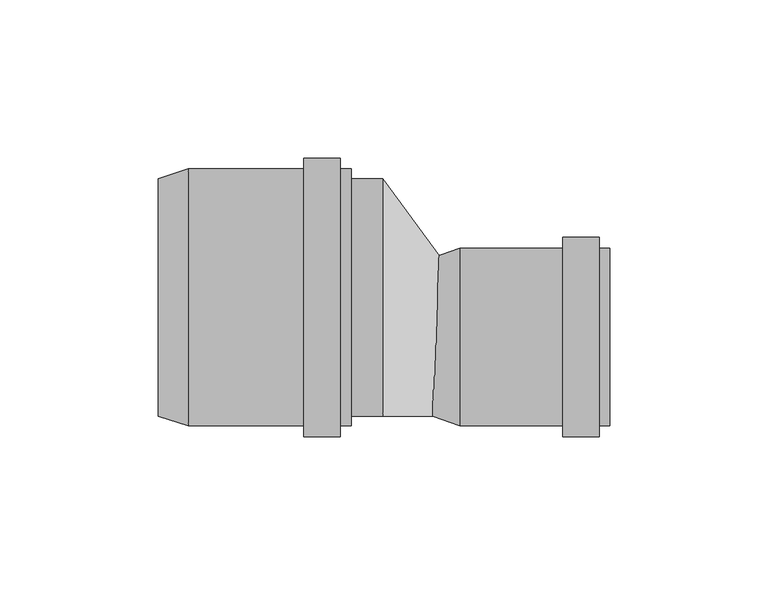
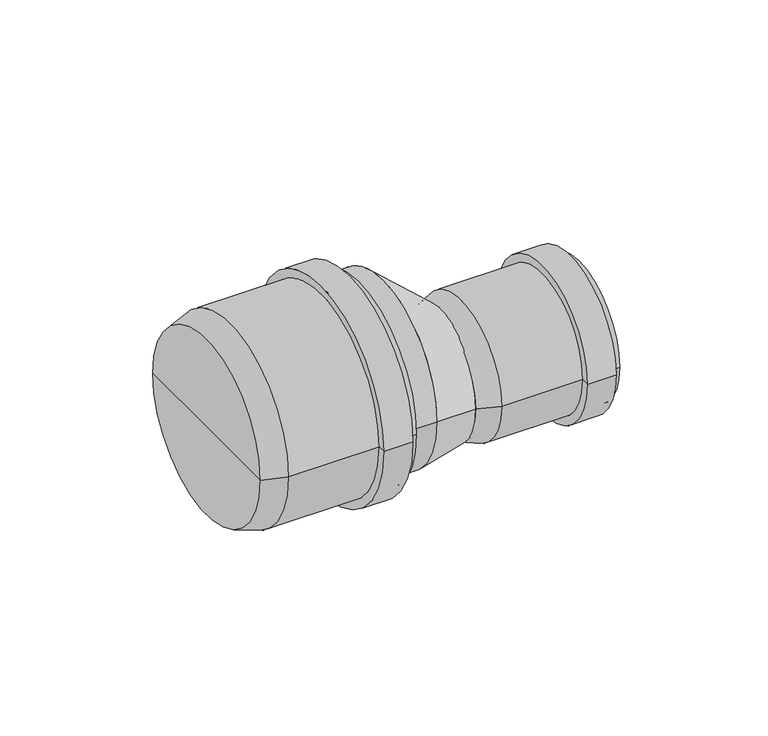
"""IFC4 building model written with IfcOpenShell, lengths in millimetres: pipe fitting geometry, pf_HTR_red-nes-dlouha : pf_HTR_red-nes-dlouha."""

from ifc_helpers import new_model, si_unit, point, frame, origin, origin_2d, place, context, project, spatial, polyline, circle_curve, trimmed, segment, composite_curve, outline, extrude, source, transform, mapped, element, save
from ifc_brep_helpers import plane_surface, cylinder_surface, revolved_surface, spline_surface, advanced_brep


def pipe_fitting_0050a4eb(model_context):
    return source(origin(), model_context, "Body", "SolidModel", [
        advanced_brep(
        [(-71.0, -37.5, 0.0), (-71.0, 37.5, 0.0), (-61.5, 40.6, 0.0), (-61.5, -40.6, 0.0), (-71.0, 0.0, 0.0), (-10.0, -40.6, 0.0), (-10.0, 40.6, 0.0), (-10.0, 0.0, 0.0), (-13.4, -40.6, 0.0), (-13.4, 40.6, 0.0), (-13.4, -44.0, 0.0), (-13.4, 44.0, 0.0), (-25.0, -44.0, 0.0), (-25.0, 44.0, 0.0), (-25.0, -40.6, 0.0), (-25.0, 40.6, 0.0)],
        [
            (0, 1, circle_curve(frame((-71.0, 0.0, 0.0), z_axis=(1.0, 0.0, 0.0), x_axis=(0.0, 1.0, 0.0)), 37.5)),
            (1, 2),
            (2, 3, circle_curve(frame((-61.5, 0.0, 0.0), z_axis=(-1.0, 0.0, 0.0), x_axis=(0.0, 1.0, 0.0)), 40.6)),
            (3, 0),
            (1, 0, circle_curve(frame((-71.0, 0.0, 0.0), z_axis=(1.0, 0.0, 0.0), x_axis=(0.0, 1.0, 0.0)), 37.5)),
            (3, 2, circle_curve(frame((-61.5, 0.0, 0.0), z_axis=(-1.0, 0.0, 0.0), x_axis=(0.0, 1.0, 0.0)), 40.6)),
            (4, 1),
            (0, 4),
            (5, 6, circle_curve(frame((-10.0, 0.0, 0.0), z_axis=(1.0, 0.0, 0.0), x_axis=(0.0, 1.0, 0.0)), 40.6)),
            (6, 7),
            (7, 5),
            (6, 5, circle_curve(frame((-10.0, 0.0, 0.0), z_axis=(1.0, 0.0, 0.0), x_axis=(0.0, 1.0, 0.0)), 40.6)),
            (8, 9, circle_curve(frame((-13.4, 0.0, 0.0), z_axis=(1.0, 0.0, 0.0), x_axis=(0.0, 1.0, 0.0)), 40.6)),
            (9, 6),
            (5, 8),
            (9, 8, circle_curve(frame((-13.4, 0.0, 0.0), z_axis=(1.0, 0.0, 0.0), x_axis=(0.0, 1.0, 0.0)), 40.6)),
            (10, 11, circle_curve(frame((-13.4, 0.0, 0.0), z_axis=(1.0, 0.0, 0.0), x_axis=(0.0, 1.0, 0.0)), 44.0)),
            (11, 9),
            (8, 10),
            (11, 10, circle_curve(frame((-13.4, 0.0, 0.0), z_axis=(1.0, 0.0, 0.0), x_axis=(0.0, 1.0, 0.0)), 44.0)),
            (12, 13, circle_curve(frame((-25.0, 0.0, 0.0), z_axis=(1.0, 0.0, 0.0), x_axis=(0.0, 1.0, 0.0)), 44.0)),
            (13, 11),
            (10, 12),
            (13, 12, circle_curve(frame((-25.0, 0.0, 0.0), z_axis=(1.0, 0.0, 0.0), x_axis=(0.0, 1.0, 0.0)), 44.0)),
            (14, 15, circle_curve(frame((-25.0, 0.0, 0.0), z_axis=(1.0, 0.0, 0.0), x_axis=(0.0, 1.0, 0.0)), 40.6)),
            (15, 13),
            (12, 14),
            (15, 14, circle_curve(frame((-25.0, 0.0, 0.0), z_axis=(1.0, 0.0, 0.0), x_axis=(0.0, 1.0, 0.0)), 40.6)),
            (2, 15),
            (14, 3),
        ],
        [
            revolved_surface(polyline([(-61.5, 40.6, 0.0), (-71.0, 37.5, 0.0)]), (-71.0, 0.0, 0.0), (-1.0, 0.0, 0.0)),
            plane_surface(frame((-71.0, 0.0, 0.0), z_axis=(-1.0, 0.0, 0.0), x_axis=(0.0, 1.0, 0.0))),
            plane_surface(frame((-10.0, 0.0, 0.0), z_axis=(1.0, 0.0, 0.0), x_axis=(0.0, 1.0, 0.0))),
            cylinder_surface(frame((-71.0, 0.0, 0.0), z_axis=(-1.0, 0.0, 0.0), x_axis=(0.0, 1.0, 0.0)), 40.6),
            plane_surface(frame((-13.4, 0.0, 0.0), z_axis=(1.0, 0.0, 0.0), x_axis=(0.0, 1.0, 0.0))),
            cylinder_surface(frame((-71.0, 0.0, 0.0), z_axis=(-1.0, 0.0, 0.0), x_axis=(0.0, 1.0, 0.0)), 44.0),
            plane_surface(frame((-25.0, 0.0, 0.0), z_axis=(-1.0, 0.0, 0.0), x_axis=(0.0, 1.0, 0.0))),
        ],
        [
            (0, [[1, 2, 3, 4]]),
            (0, [[5, -4, 6, -2]]),
            (1, [[7, -1, 8]]),
            (1, [[-8, -5, -7]]),
            (2, [[9, 10, 11]]),
            (2, [[12, -11, -10]]),
            (3, [[13, 14, -9, 15]]),
            (3, [[16, -15, -12, -14]]),
            (4, [[17, 18, -13, 19]]),
            (4, [[20, -19, -16, -18]]),
            (5, [[21, 22, -17, 23]]),
            (5, [[24, -23, -20, -22]]),
            (6, [[25, 26, -21, 27]]),
            (6, [[28, -27, -24, -26]]),
            (3, [[-3, 29, -25, 30]]),
            (3, [[-6, -30, -28, -29]]),
        ],
    ),
        advanced_brep(
        [(15.75, -37.5, 0.0), (15.75, 12.5, 0.0), (24.25, 15.6, 0.0), (24.25, -40.6, 0.0), (15.75, -12.5, 0.0), (71.75, -40.6, 0.0), (71.75, 15.6, 0.0), (71.75, -12.5, 0.0), (68.35, -40.6, 0.0), (68.35, 15.6, 0.0), (68.35, -44.0, 0.0), (68.35, 19.0, 0.0), (56.95, -44.0, 0.0), (56.95, 19.0, 0.0), (56.95, -40.6, 0.0), (56.95, 15.6, 0.0)],
        [
            (0, 1, circle_curve(frame((15.75, -12.5, 0.0), z_axis=(1.0, 0.0, 0.0), x_axis=(0.0, 1.0, 0.0)), 25.0)),
            (1, 2),
            (2, 3, circle_curve(frame((24.25, -12.5, 0.0), z_axis=(-1.0, 0.0, 0.0), x_axis=(0.0, 1.0, 0.0)), 28.1)),
            (3, 0),
            (1, 0, circle_curve(frame((15.75, -12.5, 0.0), z_axis=(1.0, 0.0, 0.0), x_axis=(0.0, 1.0, 0.0)), 25.0)),
            (3, 2, circle_curve(frame((24.25, -12.5, 0.0), z_axis=(-1.0, 0.0, 0.0), x_axis=(0.0, 1.0, 0.0)), 28.1)),
            (4, 1),
            (0, 4),
            (5, 6, circle_curve(frame((71.75, -12.5, 0.0), z_axis=(1.0, 0.0, 0.0), x_axis=(0.0, 1.0, 0.0)), 28.1)),
            (6, 7),
            (7, 5),
            (6, 5, circle_curve(frame((71.75, -12.5, 0.0), z_axis=(1.0, 0.0, 0.0), x_axis=(0.0, 1.0, 0.0)), 28.1)),
            (8, 9, circle_curve(frame((68.35, -12.5, 0.0), z_axis=(1.0, 0.0, 0.0), x_axis=(0.0, 1.0, 0.0)), 28.1)),
            (9, 6),
            (5, 8),
            (9, 8, circle_curve(frame((68.35, -12.5, 0.0), z_axis=(1.0, 0.0, 0.0), x_axis=(0.0, 1.0, 0.0)), 28.1)),
            (10, 11, circle_curve(frame((68.35, -12.5, 0.0), z_axis=(1.0, 0.0, 0.0), x_axis=(0.0, 1.0, 0.0)), 31.5)),
            (11, 9),
            (8, 10),
            (11, 10, circle_curve(frame((68.35, -12.5, 0.0), z_axis=(1.0, 0.0, 0.0), x_axis=(0.0, 1.0, 0.0)), 31.5)),
            (12, 13, circle_curve(frame((56.95, -12.5, 0.0), z_axis=(1.0, 0.0, 0.0), x_axis=(0.0, 1.0, 0.0)), 31.5)),
            (13, 11),
            (10, 12),
            (13, 12, circle_curve(frame((56.95, -12.5, 0.0), z_axis=(1.0, 0.0, 0.0), x_axis=(0.0, 1.0, 0.0)), 31.5)),
            (14, 15, circle_curve(frame((56.95, -12.5, 0.0), z_axis=(1.0, 0.0, 0.0), x_axis=(0.0, 1.0, 0.0)), 28.1)),
            (15, 13),
            (12, 14),
            (15, 14, circle_curve(frame((56.95, -12.5, 0.0), z_axis=(1.0, 0.0, 0.0), x_axis=(0.0, 1.0, 0.0)), 28.1)),
            (2, 15),
            (14, 3),
        ],
        [
            revolved_surface(polyline([(24.25, 15.6, 0.0), (15.75, 12.5, 0.0)]), (15.75, -12.5, 0.0), (-1.0, 0.0, 0.0)),
            plane_surface(frame((15.75, -12.5, 0.0), z_axis=(-1.0, 0.0, 0.0), x_axis=(0.0, 1.0, 0.0))),
            plane_surface(frame((71.75, -12.5, 0.0), z_axis=(1.0, 0.0, 0.0), x_axis=(0.0, 1.0, 0.0))),
            cylinder_surface(frame((15.75, -12.5, 0.0), z_axis=(-1.0, 0.0, 0.0), x_axis=(0.0, 1.0, 0.0)), 28.1),
            plane_surface(frame((68.35, -12.5, 0.0), z_axis=(1.0, 0.0, 0.0), x_axis=(0.0, 1.0, 0.0))),
            cylinder_surface(frame((15.75, -12.5, 0.0), z_axis=(-1.0, 0.0, 0.0), x_axis=(0.0, 1.0, 0.0)), 31.5),
            plane_surface(frame((56.95, -12.5, 0.0), z_axis=(-1.0, 0.0, 0.0), x_axis=(0.0, 1.0, 0.0))),
        ],
        [
            (0, [[1, 2, 3, 4]]),
            (0, [[5, -4, 6, -2]]),
            (1, [[7, -1, 8]]),
            (1, [[-8, -5, -7]]),
            (2, [[9, 10, 11]]),
            (2, [[12, -11, -10]]),
            (3, [[13, 14, -9, 15]]),
            (3, [[16, -15, -12, -14]]),
            (4, [[17, 18, -13, 19]]),
            (4, [[20, -19, -16, -18]]),
            (5, [[21, 22, -17, 23]]),
            (5, [[24, -23, -20, -22]]),
            (6, [[25, 26, -21, 27]]),
            (6, [[28, -27, -24, -26]]),
            (3, [[-3, 29, -25, 30]]),
            (3, [[-6, -30, -28, -29]]),
        ],
    ),
        extrude(outline(composite_curve([segment(trimmed(circle_curve(origin_2d(), 37.5), [point((-37.5, 0.0))], [point((37.5, 0.0))], False, "CARTESIAN"), True, "CONTINUOUS"), segment(trimmed(circle_curve(origin_2d(), 37.5), [point((37.5, 0.0))], [point((-37.5, 0.0))], False, "CARTESIAN"), True, "CONTINUOUS")], self_intersect=False)), frame((-10.0, 0.0, 0.0), z_axis=(1.0, 0.0, 0.0), x_axis=(0.0, 1.0, 0.0)), (0.0, 0.0, 1.0), 10.0),
        advanced_brep(
        [(18.25, -37.5, 0.0), (18.25, 12.5, 0.0), (0.0, -37.5, 0.0), (0.0, 37.5, 0.0)],
        [
            (0, 1, circle_curve(frame((18.25, -12.5, 0.0), z_axis=(1.0, 0.0, 0.0), x_axis=(0.0, 1.0, 0.0)), 25.0)),
            (1, 0, circle_curve(frame((18.25, -12.5, 0.0), z_axis=(1.0, 0.0, 0.0), x_axis=(0.0, 1.0, 0.0)), 25.0)),
            (2, 3, circle_curve(frame((0.0, 0.0, 0.0), z_axis=(-1.0, 0.0, 0.0), x_axis=(0.0, 1.0, 0.0)), 37.5)),
            (3, 2, circle_curve(frame((0.0, 0.0, 0.0), z_axis=(-1.0, 0.0, 0.0), x_axis=(0.0, 1.0, 0.0)), 37.5)),
            (3, 1),
            (0, 2),
        ],
        [
            plane_surface(frame((18.25, -12.5, 0.0), z_axis=(1.0, 0.0, 0.0), x_axis=(0.0, 0.0, -1.0))),
            plane_surface(frame((0.0, 0.0, 0.0), z_axis=(-1.0, 0.0, 0.0), x_axis=(0.0, 0.0, -1.0))),
            spline_surface(2, 1, [[(0.0, -37.5, 0.0), (18.25, -37.5, 0.0)], [(0.0, -37.5, -37.5), (18.25, -37.5, -25.0)], [(0.0, 0.0, -37.5), (18.25, -12.5, -25.0)], [(0.0, 37.5, -37.5), (18.25, 12.5, -25.0)], [(0.0, 37.5, 0.0), (18.25, 12.5, 0.0)]], [3, 2, 3], [2, 2], [0.0, 1.0, 2.0], [0.0, 1.0], weights=[[1.0, 1.0], [0.7071067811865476, 0.7071067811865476], [1.0, 1.0], [0.7071067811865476, 0.7071067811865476], [1.0, 1.0]]),
            spline_surface(2, 1, [[(0.0, 37.5, 0.0), (18.25, 12.5, 0.0)], [(0.0, 37.5, 37.5), (18.25, 12.5, 25.0)], [(0.0, 0.0, 37.5), (18.25, -12.5, 25.0)], [(0.0, -37.5, 37.5), (18.25, -37.5, 25.0)], [(0.0, -37.5, 0.0), (18.25, -37.5, 0.0)]], [3, 2, 3], [2, 2], [0.0, 1.0, 2.0], [0.0, 1.0], weights=[[1.0, 1.0], [0.7071067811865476, 0.7071067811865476], [1.0, 1.0], [0.7071067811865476, 0.7071067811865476], [1.0, 1.0]]),
        ],
        [
            (0, [[1, 2]]),
            (1, [[3, 4]]),
            (2, [[-4, 5, -1, 6]]),
            (3, [[-3, -6, -2, -5]]),
        ],
    ),
    ])


if __name__ == "__main__":
    model = new_model("IFC4")
    model_context = context("Model", 3, world=origin())
    ifc_project = project(units=[si_unit("LENGTHUNIT", "METRE", prefix="MILLI")], contexts=[model_context])
    site = spatial("IfcSite", under=ifc_project)
    building = spatial("IfcBuilding", under=site)
    placement = place(None, origin())
    pipe_fitting_shape = pipe_fitting_0050a4eb(model_context)
    element("IfcPipeFitting", 1, ObjectType="pf_HTR_red-nes-dlouha : pf_HTR_red-nes-dlouha", at=placement, inside=building, context=model_context, shape_type="MappedRepresentation", body=[
        mapped(pipe_fitting_shape, transform((0.0, 0.0, 0.0), x_axis=(1.0, 0.0, 0.0), y_axis=(0.0, 1.0, 0.0), z_axis=(0.0, 0.0, 1.0))),
    ])
    save(model, "model.ifc")
